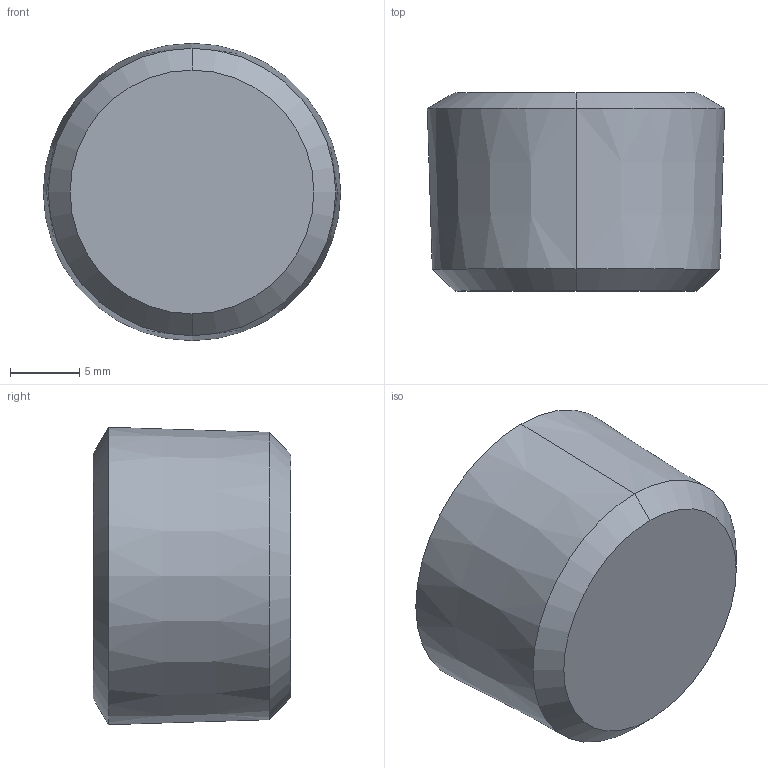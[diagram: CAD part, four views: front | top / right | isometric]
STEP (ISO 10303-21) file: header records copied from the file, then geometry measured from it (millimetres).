
FILE_DESCRIPTION (( 'STEP AP203' ), '1' );
FILE_NAME ('ST50-O.step', '2022-02-03T00:49:54', ( 'Microsoft Corporation' ), ( 'MS' ), 'SwSTEP 2.0', 'SolidWorks 2019', '' );
FILE_SCHEMA (( 'CONFIG_CONTROL_DESIGN' ));
Length unit declared in the file: inch
Products named in the file (1): ST50-O
Bounding box: 21.44 x 14.27 x 21.44 mm (x, y, z)
Volume: 4052.8 mm3; surface area: 1819.5 mm2
Topology: 1 solids, 1 shells, 25 faces, 54 edges, 32 vertices
Faces by surface type: plane 15, cone 10
Entity records: 805 total; most frequent: CARTESIAN_POINT 184, DIRECTION 116, ORIENTED_EDGE 108, EDGE_CURVE 54, AXIS2_PLACEMENT_3D 44, VERTEX_POINT 32, VECTOR 28, LINE 28
